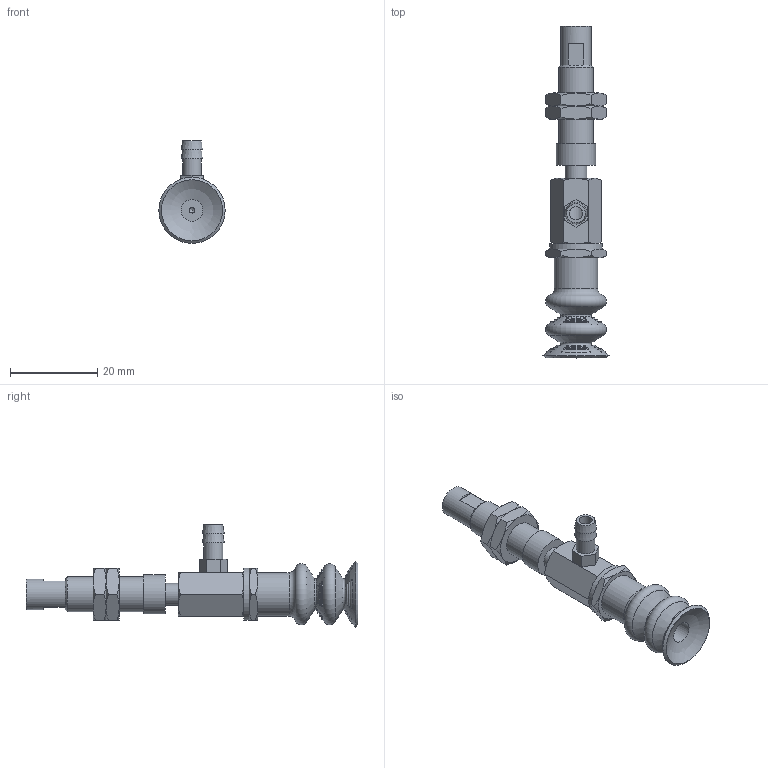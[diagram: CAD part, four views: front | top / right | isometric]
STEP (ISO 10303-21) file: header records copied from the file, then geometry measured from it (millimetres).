
FILE_DESCRIPTION(('STEP AP203'),'1');
FILE_NAME('-T.stp','2025-04-03T06:49:00',(' '),(' '),'Spatial InterOp 3D',' ',' ');
FILE_SCHEMA(('CONFIG_CONTROL_DESIGN'));
Length unit declared in the file: millimetre
Products named in the file (8): BNABPCYS-15-3-※-T; Adapter_napc-15-T; Connector_s-15-3; Nut napc_s-15-3; NAPCTS-15-3-FBODY; NAPCTS-15-3-MBODY; BPCG-15-※; T
Assembly tree (8 placements, depth 2):
  BNABPCYS-15-3-※-T
    Adapter_napc-15-T
    Connector_s-15-3
    Nut napc_s-15-3  x2
    NAPCTS-15-3-FBODY
    NAPCTS-15-3-MBODY
    BPCG-15-※
    T
Bounding box: 15.2 x 76.2 x 23.6 mm (x, y, z)
Volume: 5638.9 mm3; surface area: 6032.7 mm2
Topology: 8 solids, 8 shells, 255 faces, 735 edges, 473 vertices
Faces by surface type: cone 71, plane 70, sphere 58, torus 34, cylinder 22
Full cylindrical faces by diameter (mm): 1.25 x1, 3 x1, 4.134 x3, 4.3 x1, 5 x9, 7 x1, 7.188 x2, 8 x1, 9 x1, 10 x1, 12 x1
Entity records: 7245 total; most frequent: CARTESIAN_POINT 2001, DIRECTION 1058, ORIENTED_EDGE 888, AXIS2_PLACEMENT_3D 497, EDGE_CURVE 444, EDGE_LOOP 332, VERTEX_POINT 315, FACE_OUTER_BOUND 261
